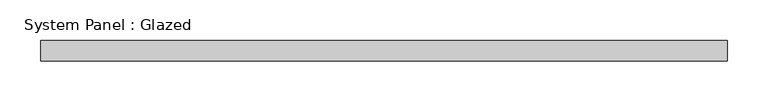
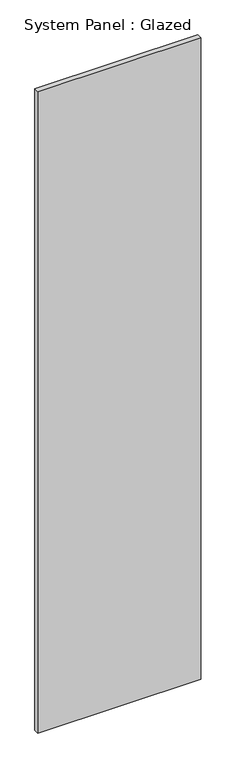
"""IFC4 building model written with IfcOpenShell, lengths in millimetres: plate geometry, System Panel : Glazed."""

from ifc_helpers import new_model, si_unit, origin, origin_with_axes, place, context, project, spatial, polyline, outline, extrude, source, transform, mapped, element, save


def system_panel_glazed_0fb09b64(model_context):
    return source(origin(), model_context, "Body", "SweptSolid", [
        extrude(outline(polyline([(420.6178629, 24.5), (-420.6178629, 24.5), (-420.6178629, 49.5), (420.6178629, 49.5), (420.6178629, 24.5)])), origin_with_axes(), (0.0, 0.0, 1.0), 3500.0),
    ])


if __name__ == "__main__":
    model = new_model("IFC4")
    model_context = context("Model", 3, world=origin())
    ifc_project = project(units=[si_unit("LENGTHUNIT", "METRE", prefix="MILLI")], contexts=[model_context])
    site = spatial("IfcSite", under=ifc_project)
    building = spatial("IfcBuilding", under=site)
    placement = place(None, origin())
    system_panel_glazed_shape = system_panel_glazed_0fb09b64(model_context)
    element("IfcPlate", 1, ObjectType="System Panel : Glazed", at=placement, inside=building, context=model_context, shape_type="MappedRepresentation", body=[
        mapped(system_panel_glazed_shape, transform((0.0, 0.0, 0.0), x_axis=(1.0, 0.0, 0.0), y_axis=(0.0, 1.0, 0.0), z_axis=(0.0, 0.0, 1.0))),
    ])
    save(model, "model.ifc")
